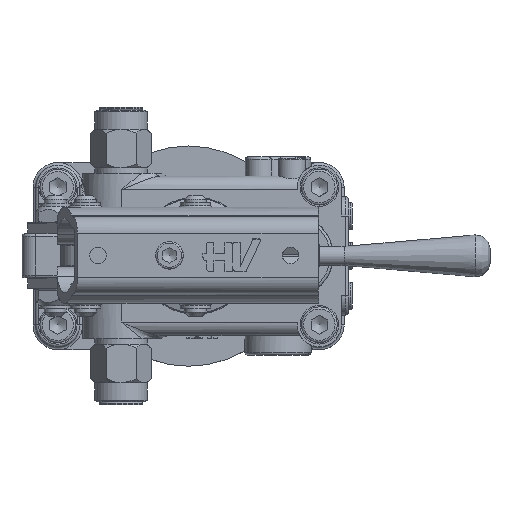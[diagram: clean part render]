
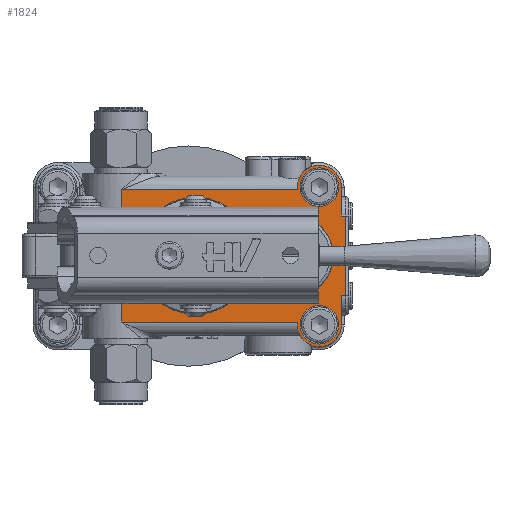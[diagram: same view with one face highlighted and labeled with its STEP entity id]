
A CAD part, top view. The second image highlights one B-rep face of the part: STEP entity #1824.
In plain terms, the highlighted planar face has unit normal (0, 0, 1).
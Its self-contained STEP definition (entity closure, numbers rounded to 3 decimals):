
#1631=CARTESIAN_POINT('',(104.,34.,43.));
#1632=DIRECTION('',(0.0,0.0,1.0));
#1633=DIRECTION('',(1.0,0.0,0.0));
#1634=AXIS2_PLACEMENT_3D('',#1631,#1632,#1633);
#1635=PLANE('',#1634);
#1636=CARTESIAN_POINT('',(113.5,48.5,43.));
#1637=VERTEX_POINT('',#1636);
#1638=CARTESIAN_POINT('',(113.5,19.5,43.));
#1639=VERTEX_POINT('',#1638);
#1640=CARTESIAN_POINT('',(113.5,48.5,43.));
#1641=DIRECTION('',(0.0,-1.0,0.0));
#1642=VECTOR('',#1641,29.);
#1643=LINE('',#1640,#1642);
#1644=EDGE_CURVE('',#1637,#1639,#1643,.T.);
#1645=ORIENTED_EDGE('',*,*,#1644,.F.);
#1646=CARTESIAN_POINT('',(112.,48.5,43.));
#1647=VERTEX_POINT('',#1646);
#1648=CARTESIAN_POINT('',(112.,48.5,43.));
#1649=DIRECTION('',(1.0,0.0,0.0));
#1650=VECTOR('',#1649,1.5);
#1651=LINE('',#1648,#1650);
#1652=EDGE_CURVE('',#1647,#1637,#1651,.T.);
#1653=ORIENTED_EDGE('',*,*,#1652,.F.);
#1654=CARTESIAN_POINT('',(112.0,59.,43.));
#1655=VERTEX_POINT('',#1654);
#1656=CARTESIAN_POINT('',(112.0,59.,43.));
#1657=DIRECTION('',(0.0,-1.0,0.0));
#1658=VECTOR('',#1657,10.5);
#1659=LINE('',#1656,#1658);
#1660=EDGE_CURVE('',#1655,#1647,#1659,.T.);
#1661=ORIENTED_EDGE('',*,*,#1660,.F.);
#1662=CARTESIAN_POINT('',(96.,59.,43.));
#1663=VERTEX_POINT('',#1662);
#1664=CARTESIAN_POINT('',(104.,59.,43.));
#1665=DIRECTION('',(0.0,0.0,-1.0));
#1666=DIRECTION('',(1.0,0.0,0.0));
#1667=AXIS2_PLACEMENT_3D('',#1664,#1665,#1666);
#1668=CIRCLE('',#1667,8.0);
#1669=EDGE_CURVE('',#1663,#1655,#1668,.T.);
#1670=ORIENTED_EDGE('',*,*,#1669,.F.);
#1671=CARTESIAN_POINT('',(96.,58.,43.));
#1672=VERTEX_POINT('',#1671);
#1673=CARTESIAN_POINT('',(96.,58.,43.));
#1674=DIRECTION('',(0.0,1.0,0.0));
#1675=VECTOR('',#1674,1.);
#1676=LINE('',#1673,#1675);
#1677=EDGE_CURVE('',#1672,#1663,#1676,.T.);
#1678=ORIENTED_EDGE('',*,*,#1677,.F.);
#1679=CARTESIAN_POINT('',(32.,58.,43.));
#1680=VERTEX_POINT('',#1679);
#1681=CARTESIAN_POINT('',(96.,58.,43.));
#1682=DIRECTION('',(-1.0,0.0,0.0));
#1683=VECTOR('',#1682,64.);
#1684=LINE('',#1681,#1683);
#1685=EDGE_CURVE('',#1672,#1680,#1684,.T.);
#1686=ORIENTED_EDGE('',*,*,#1685,.T.);
#1687=CARTESIAN_POINT('',(32.,44.122,43.));
#1688=VERTEX_POINT('',#1687);
#1689=CARTESIAN_POINT('',(32.0,44.122,43.0));
#1690=DIRECTION('',(0.0,1.0,0.0));
#1691=VECTOR('',#1690,13.878);
#1692=LINE('',#1689,#1691);
#1693=EDGE_CURVE('',#1688,#1680,#1692,.T.);
#1694=ORIENTED_EDGE('',*,*,#1693,.F.);
#1695=CARTESIAN_POINT('',(33.732,41.0,43.));
#1696=VERTEX_POINT('',#1695);
#1697=CARTESIAN_POINT('',(33.732,41.0,43.));
#1698=CARTESIAN_POINT('',(33.732,41.528,43.));
#1699=CARTESIAN_POINT('',(33.438,42.767,43.));
#1700=CARTESIAN_POINT('',(32.582,43.719,43.));
#1701=CARTESIAN_POINT('',(32.,44.122,43.));
#1702=B_SPLINE_CURVE_WITH_KNOTS('',3,(#1697,#1698,#1699,#1700,#1701),.UNSPECIFIED.,.F.,.U.,(4,1,4),(2.696,2.855,3.066),.UNSPECIFIED.);
#1703=EDGE_CURVE('',#1696,#1688,#1702,.T.);
#1704=ORIENTED_EDGE('',*,*,#1703,.F.);
#1705=CARTESIAN_POINT('',(33.732,27.,43.));
#1706=VERTEX_POINT('',#1705);
#1707=CARTESIAN_POINT('',(33.732,27.,43.));
#1708=DIRECTION('',(0.0,1.0,0.0));
#1709=VECTOR('',#1708,14.);
#1710=LINE('',#1707,#1709);
#1711=EDGE_CURVE('',#1706,#1696,#1710,.T.);
#1712=ORIENTED_EDGE('',*,*,#1711,.F.);
#1713=CARTESIAN_POINT('',(32.,23.878,43.));
#1714=VERTEX_POINT('',#1713);
#1715=CARTESIAN_POINT('',(32.,23.878,43.));
#1716=CARTESIAN_POINT('',(32.433,24.178,43.));
#1717=CARTESIAN_POINT('',(33.336,25.067,43.));
#1718=CARTESIAN_POINT('',(33.732,26.29,43.0));
#1719=CARTESIAN_POINT('',(33.732,27.,43.));
#1720=B_SPLINE_CURVE_WITH_KNOTS('',3,(#1715,#1716,#1717,#1718,#1719),.UNSPECIFIED.,.F.,.U.,(4,1,4),(2.696,2.854,3.065),.UNSPECIFIED.);
#1721=EDGE_CURVE('',#1714,#1706,#1720,.T.);
#1722=ORIENTED_EDGE('',*,*,#1721,.F.);
#1723=CARTESIAN_POINT('',(32.,10.0,43.));
#1724=VERTEX_POINT('',#1723);
#1725=CARTESIAN_POINT('',(32.0,10.,43.0));
#1726=DIRECTION('',(0.0,1.0,0.0));
#1727=VECTOR('',#1726,13.878);
#1728=LINE('',#1725,#1727);
#1729=EDGE_CURVE('',#1724,#1714,#1728,.T.);
#1730=ORIENTED_EDGE('',*,*,#1729,.F.);
#1731=CARTESIAN_POINT('',(96.0,10.0,43.));
#1732=VERTEX_POINT('',#1731);
#1733=CARTESIAN_POINT('',(96.0,10.0,43.));
#1734=DIRECTION('',(-1.0,0.0,0.0));
#1735=VECTOR('',#1734,64.);
#1736=LINE('',#1733,#1735);
#1737=EDGE_CURVE('',#1732,#1724,#1736,.T.);
#1738=ORIENTED_EDGE('',*,*,#1737,.F.);
#1739=CARTESIAN_POINT('',(96.0,9.,43.));
#1740=VERTEX_POINT('',#1739);
#1741=CARTESIAN_POINT('',(96.,9.,43.));
#1742=DIRECTION('',(0.0,1.0,0.0));
#1743=VECTOR('',#1742,1.);
#1744=LINE('',#1741,#1743);
#1745=EDGE_CURVE('',#1740,#1732,#1744,.T.);
#1746=ORIENTED_EDGE('',*,*,#1745,.F.);
#1747=CARTESIAN_POINT('',(112.,9.,43.));
#1748=VERTEX_POINT('',#1747);
#1749=CARTESIAN_POINT('',(104.0,9.,43.));
#1750=DIRECTION('',(0.0,0.0,-1.0));
#1751=DIRECTION('',(-1.0,0.0,0.0));
#1752=AXIS2_PLACEMENT_3D('',#1749,#1750,#1751);
#1753=CIRCLE('',#1752,8.0);
#1754=EDGE_CURVE('',#1748,#1740,#1753,.T.);
#1755=ORIENTED_EDGE('',*,*,#1754,.F.);
#1756=CARTESIAN_POINT('',(112.0,19.5,43.));
#1757=VERTEX_POINT('',#1756);
#1758=CARTESIAN_POINT('',(112.,19.5,43.));
#1759=DIRECTION('',(0.0,-1.0,0.0));
#1760=VECTOR('',#1759,10.5);
#1761=LINE('',#1758,#1760);
#1762=EDGE_CURVE('',#1757,#1748,#1761,.T.);
#1763=ORIENTED_EDGE('',*,*,#1762,.F.);
#1764=CARTESIAN_POINT('',(112.0,19.5,43.));
#1765=DIRECTION('',(1.0,0.0,0.0));
#1766=VECTOR('',#1765,1.5);
#1767=LINE('',#1764,#1766);
#1768=EDGE_CURVE('',#1757,#1639,#1767,.T.);
#1769=ORIENTED_EDGE('',*,*,#1768,.T.);
#1770=EDGE_LOOP('',(#1645,#1653,#1661,#1670,#1678,#1686,#1694,#1704,#1712,#1722,#1730,#1738,#1746,#1755,#1763,#1769));
#1771=FACE_OUTER_BOUND('',#1770,.T.);
#1772=CARTESIAN_POINT('',(83.0,44.198,43.));
#1773=VERTEX_POINT('',#1772);
#1774=CARTESIAN_POINT('',(83.0,23.802,43.));
#1775=VERTEX_POINT('',#1774);
#1776=CARTESIAN_POINT('',(94.,34.0,43.));
#1777=DIRECTION('',(0.0,0.0,-1.0));
#1778=DIRECTION('',(-1.0,0.0,0.0));
#1779=AXIS2_PLACEMENT_3D('',#1776,#1777,#1778);
#1780=CIRCLE('',#1779,15.0);
#1781=EDGE_CURVE('',#1773,#1775,#1780,.T.);
#1782=ORIENTED_EDGE('',*,*,#1781,.T.);
#1783=CARTESIAN_POINT('',(83.0,23.802,43.));
#1784=DIRECTION('',(0.0,1.0,0.0));
#1785=VECTOR('',#1784,20.396);
#1786=LINE('',#1783,#1785);
#1787=EDGE_CURVE('',#1775,#1773,#1786,.T.);
#1788=ORIENTED_EDGE('',*,*,#1787,.T.);
#1789=EDGE_LOOP('',(#1782,#1788));
#1790=FACE_BOUND('',#1789,.T.);
#1791=CARTESIAN_POINT('',(111.0,9.,43.));
#1792=VERTEX_POINT('',#1791);
#1793=CARTESIAN_POINT('',(104.0,9.,43.));
#1794=DIRECTION('',(0.0,0.0,-1.0));
#1795=DIRECTION('',(1.0,0.0,0.0));
#1796=AXIS2_PLACEMENT_3D('',#1793,#1794,#1795);
#1797=CIRCLE('',#1796,7.);
#1798=EDGE_CURVE('',#1792,#1792,#1797,.T.);
#1799=ORIENTED_EDGE('',*,*,#1798,.T.);
#1800=EDGE_LOOP('',(#1799));
#1801=FACE_BOUND('',#1800,.T.);
#1802=CARTESIAN_POINT('',(111.,59.,43.));
#1803=VERTEX_POINT('',#1802);
#1804=CARTESIAN_POINT('',(104.,59.,43.));
#1805=DIRECTION('',(0.0,0.0,-1.0));
#1806=DIRECTION('',(1.0,0.0,0.0));
#1807=AXIS2_PLACEMENT_3D('',#1804,#1805,#1806);
#1808=CIRCLE('',#1807,7.);
#1809=EDGE_CURVE('',#1803,#1803,#1808,.T.);
#1810=ORIENTED_EDGE('',*,*,#1809,.T.);
#1811=EDGE_LOOP('',(#1810));
#1812=FACE_BOUND('',#1811,.T.);
#1813=CARTESIAN_POINT('',(70.195,18.646,43.));
#1814=VERTEX_POINT('',#1813);
#1815=CARTESIAN_POINT('',(59.,34.0,43.));
#1816=DIRECTION('',(0.,0.,1.0));
#1817=DIRECTION('',(-0.589,0.808,0.));
#1818=AXIS2_PLACEMENT_3D('',#1815,#1816,#1817);
#1819=CIRCLE('',#1818,19.002);
#1820=EDGE_CURVE('',#1814,#1814,#1819,.T.);
#1821=ORIENTED_EDGE('',*,*,#1820,.F.);
#1822=EDGE_LOOP('',(#1821));
#1823=FACE_BOUND('',#1822,.T.);
#1824=ADVANCED_FACE('',(#1771,#1790,#1801,#1812,#1823),#1635,.T.);
